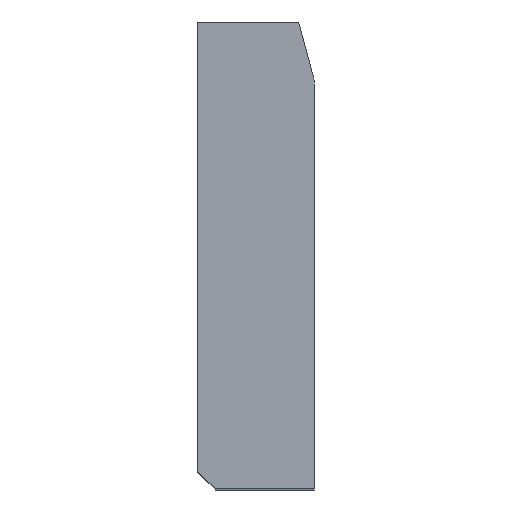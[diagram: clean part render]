
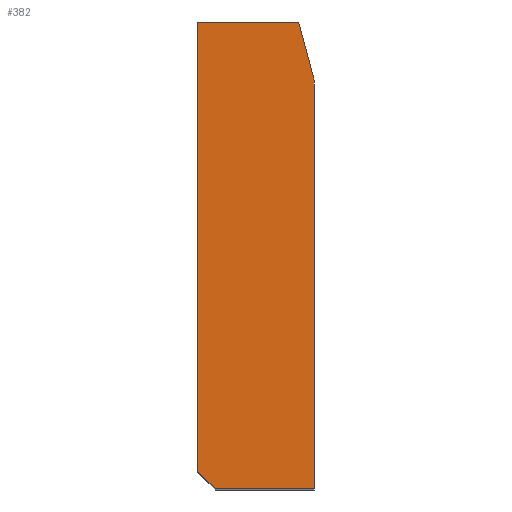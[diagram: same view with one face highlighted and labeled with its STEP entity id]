
A CAD part, top view. The second image highlights one B-rep face of the part: STEP entity #382.
In plain terms, the highlighted planar face has unit normal (0, 0, 1).
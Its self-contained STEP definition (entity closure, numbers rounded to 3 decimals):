
#70=CARTESIAN_POINT('Vertex',(0.,3.,62.5)) ;
#73=CARTESIAN_POINT('Line Origine',(0.,41.5,62.5)) ;
#77=CARTESIAN_POINT('Vertex',(0.,80.,62.5)) ;
#320=CARTESIAN_POINT('Vertex',(3.,0.,62.5)) ;
#323=CARTESIAN_POINT('Line Origine',(1.5,1.5,62.5)) ;
#335=CARTESIAN_POINT('Axis2P3D Location',(15.,69.342,62.5)) ;
#340=CARTESIAN_POINT('Line Origine',(11.5,0.,62.5)) ;
#344=CARTESIAN_POINT('Vertex',(20.,0.,62.5)) ;
#347=CARTESIAN_POINT('Line Origine',(20.,34.671,62.5)) ;
#351=CARTESIAN_POINT('Vertex',(20.,69.342,62.5)) ;
#354=CARTESIAN_POINT('Axis2P3D Location',(15.,69.342,62.5)) ;
#358=CARTESIAN_POINT('Vertex',(19.83,70.636,62.5)) ;
#361=CARTESIAN_POINT('Line Origine',(18.575,75.318,62.5)) ;
#365=CARTESIAN_POINT('Vertex',(17.321,80.,62.5)) ;
#368=CARTESIAN_POINT('Line Origine',(8.66,80.,62.5)) ;
#74=DIRECTION('Vector Direction',(0.,-1.,0.)) ;
#324=DIRECTION('Vector Direction',(0.707,-0.707,0.)) ;
#336=DIRECTION('Axis2P3D Direction',(0.,0.,1.)) ;
#337=DIRECTION('Axis2P3D XDirection',(1.,0.,-0.)) ;
#341=DIRECTION('Vector Direction',(1.,0.,0.)) ;
#348=DIRECTION('Vector Direction',(0.,1.,0.)) ;
#355=DIRECTION('Axis2P3D Direction',(0.,0.,1.)) ;
#362=DIRECTION('Vector Direction',(-0.259,0.966,0.)) ;
#369=DIRECTION('Vector Direction',(-1.,0.,0.)) ;
#338=AXIS2_PLACEMENT_3D('Plane Axis2P3D',#335,#336,#337) ;
#356=AXIS2_PLACEMENT_3D('Circle Axis2P3D',#354,#355,$) ;
#374=ORIENTED_EDGE('',*,*,#79,.T.) ;
#375=ORIENTED_EDGE('',*,*,#327,.T.) ;
#376=ORIENTED_EDGE('',*,*,#346,.T.) ;
#377=ORIENTED_EDGE('',*,*,#353,.T.) ;
#378=ORIENTED_EDGE('',*,*,#360,.T.) ;
#379=ORIENTED_EDGE('',*,*,#367,.T.) ;
#380=ORIENTED_EDGE('',*,*,#372,.T.) ;
#75=VECTOR('Line Direction',#74,1.) ;
#325=VECTOR('Line Direction',#324,1.) ;
#342=VECTOR('Line Direction',#341,1.) ;
#349=VECTOR('Line Direction',#348,1.) ;
#363=VECTOR('Line Direction',#362,1.) ;
#370=VECTOR('Line Direction',#369,1.) ;
#382=ADVANCED_FACE('A915-125X80',(#381),#339,.T.) ;
#357=CIRCLE('generated circle',#356,5.) ;
#79=EDGE_CURVE('',#78,#71,#76,.T.) ;
#327=EDGE_CURVE('',#71,#321,#326,.T.) ;
#346=EDGE_CURVE('',#321,#345,#343,.T.) ;
#353=EDGE_CURVE('',#345,#352,#350,.T.) ;
#360=EDGE_CURVE('',#352,#359,#357,.T.) ;
#367=EDGE_CURVE('',#359,#366,#364,.T.) ;
#372=EDGE_CURVE('',#366,#78,#371,.T.) ;
#373=EDGE_LOOP('',(#374,#375,#376,#377,#378,#379,#380)) ;
#381=FACE_OUTER_BOUND('',#373,.T.) ;
#76=LINE('Line',#73,#75) ;
#326=LINE('Line',#323,#325) ;
#343=LINE('Line',#340,#342) ;
#350=LINE('Line',#347,#349) ;
#364=LINE('Line',#361,#363) ;
#371=LINE('Line',#368,#370) ;
#339=PLANE('Plane',#338) ;
#71=VERTEX_POINT('',#70) ;
#78=VERTEX_POINT('',#77) ;
#321=VERTEX_POINT('',#320) ;
#345=VERTEX_POINT('',#344) ;
#352=VERTEX_POINT('',#351) ;
#359=VERTEX_POINT('',#358) ;
#366=VERTEX_POINT('',#365) ;
